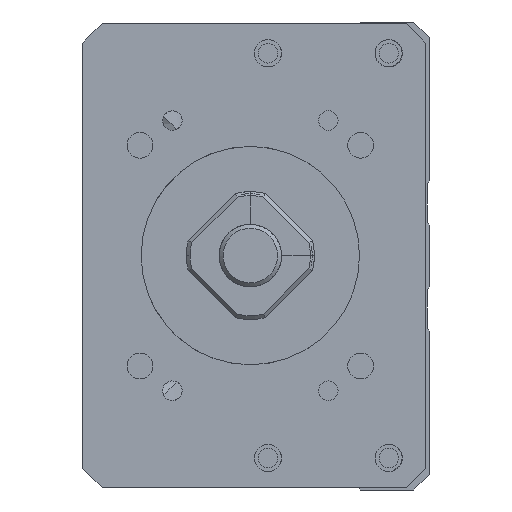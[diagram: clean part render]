
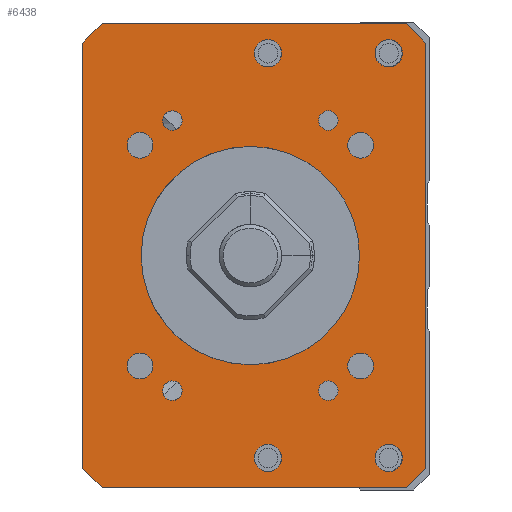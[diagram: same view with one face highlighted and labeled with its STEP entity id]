
A CAD part, left-side view. The second image highlights one B-rep face of the part: STEP entity #6438.
In plain terms, the highlighted planar face has unit normal (-1, 0, 0).
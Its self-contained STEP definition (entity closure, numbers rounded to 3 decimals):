
#4088=LINE('',#19227,#4921);
#4090=LINE('',#19251,#4923);
#4091=LINE('',#19253,#4924);
#4092=LINE('',#19255,#4925);
#4093=LINE('',#19257,#4926);
#4094=LINE('',#19259,#4927);
#4095=LINE('',#19261,#4928);
#4096=LINE('',#19263,#4929);
#4921=VECTOR('',#16147,1.);
#4923=VECTOR('',#16171,1.);
#4924=VECTOR('',#16172,1.);
#4925=VECTOR('',#16173,1.);
#4926=VECTOR('',#16174,1.);
#4927=VECTOR('',#16175,1.);
#4928=VECTOR('',#16176,1.);
#4929=VECTOR('',#16177,1.);
#5932=FACE_BOUND('',#7981,.T.);
#5933=FACE_BOUND('',#7982,.T.);
#5934=FACE_BOUND('',#7983,.T.);
#5935=FACE_BOUND('',#7984,.T.);
#5936=FACE_BOUND('',#7985,.T.);
#5937=FACE_BOUND('',#7986,.T.);
#5938=FACE_BOUND('',#7987,.T.);
#5939=FACE_BOUND('',#7988,.T.);
#5940=FACE_BOUND('',#7989,.T.);
#5941=FACE_BOUND('',#7990,.T.);
#5942=FACE_BOUND('',#7991,.T.);
#5943=FACE_BOUND('',#7992,.T.);
#5944=FACE_BOUND('',#7993,.T.);
#5945=FACE_BOUND('',#7994,.T.);
#6438=ADVANCED_FACE('',(#5932,#5933,#5934,#5935,#5936,#5937,#5938,#5939,
#5940,#5941,#5942,#5943,#5944,#5945),#7031,.F.);
#7031=PLANE('',#14710);
#7981=EDGE_LOOP('',(#9288));
#7982=EDGE_LOOP('',(#9289));
#7983=EDGE_LOOP('',(#9290));
#7984=EDGE_LOOP('',(#9291));
#7985=EDGE_LOOP('',(#9292));
#7986=EDGE_LOOP('',(#9293));
#7987=EDGE_LOOP('',(#9294));
#7988=EDGE_LOOP('',(#9295));
#7989=EDGE_LOOP('',(#9296));
#7990=EDGE_LOOP('',(#9297,#9298,#9299,#9300,#9301,#9302,#9303,#9304));
#7991=EDGE_LOOP('',(#9305));
#7992=EDGE_LOOP('',(#9306));
#7993=EDGE_LOOP('',(#9307));
#7994=EDGE_LOOP('',(#9308));
#9288=ORIENTED_EDGE('',*,*,#12916,.F.);
#9289=ORIENTED_EDGE('',*,*,#12917,.F.);
#9290=ORIENTED_EDGE('',*,*,#12918,.F.);
#9291=ORIENTED_EDGE('',*,*,#12919,.F.);
#9292=ORIENTED_EDGE('',*,*,#12920,.F.);
#9293=ORIENTED_EDGE('',*,*,#12921,.T.);
#9294=ORIENTED_EDGE('',*,*,#12922,.F.);
#9295=ORIENTED_EDGE('',*,*,#12923,.F.);
#9296=ORIENTED_EDGE('',*,*,#12924,.F.);
#9297=ORIENTED_EDGE('',*,*,#12913,.T.);
#9298=ORIENTED_EDGE('',*,*,#12925,.T.);
#9299=ORIENTED_EDGE('',*,*,#12926,.F.);
#9300=ORIENTED_EDGE('',*,*,#12927,.T.);
#9301=ORIENTED_EDGE('',*,*,#12928,.F.);
#9302=ORIENTED_EDGE('',*,*,#12929,.T.);
#9303=ORIENTED_EDGE('',*,*,#12930,.T.);
#9304=ORIENTED_EDGE('',*,*,#12931,.T.);
#9305=ORIENTED_EDGE('',*,*,#12932,.F.);
#9306=ORIENTED_EDGE('',*,*,#12933,.F.);
#9307=ORIENTED_EDGE('',*,*,#12934,.F.);
#9308=ORIENTED_EDGE('',*,*,#12893,.F.);
#11798=VERTEX_POINT('',#19150);
#11818=VERTEX_POINT('',#19226);
#11819=VERTEX_POINT('',#19228);
#11821=VERTEX_POINT('',#19234);
#11822=VERTEX_POINT('',#19236);
#11823=VERTEX_POINT('',#19238);
#11824=VERTEX_POINT('',#19240);
#11825=VERTEX_POINT('',#19242);
#11826=VERTEX_POINT('',#19244);
#11827=VERTEX_POINT('',#19246);
#11828=VERTEX_POINT('',#19248);
#11829=VERTEX_POINT('',#19250);
#11830=VERTEX_POINT('',#19252);
#11831=VERTEX_POINT('',#19254);
#11832=VERTEX_POINT('',#19256);
#11833=VERTEX_POINT('',#19258);
#11834=VERTEX_POINT('',#19260);
#11835=VERTEX_POINT('',#19262);
#11836=VERTEX_POINT('',#19265);
#11837=VERTEX_POINT('',#19267);
#11838=VERTEX_POINT('',#19269);
#12893=EDGE_CURVE('',#11798,#11798,#14160,.T.);
#12913=EDGE_CURVE('',#11819,#11818,#4088,.T.);
#12916=EDGE_CURVE('',#11821,#11821,#14169,.T.);
#12917=EDGE_CURVE('',#11822,#11822,#14170,.T.);
#12918=EDGE_CURVE('',#11823,#11823,#14171,.T.);
#12919=EDGE_CURVE('',#11824,#11824,#14172,.T.);
#12920=EDGE_CURVE('',#11825,#11825,#14173,.T.);
#12921=EDGE_CURVE('',#11826,#11826,#14174,.T.);
#12922=EDGE_CURVE('',#11827,#11827,#14175,.T.);
#12923=EDGE_CURVE('',#11828,#11828,#14176,.T.);
#12924=EDGE_CURVE('',#11829,#11829,#14177,.T.);
#12925=EDGE_CURVE('',#11818,#11830,#4090,.T.);
#12926=EDGE_CURVE('',#11831,#11830,#4091,.T.);
#12927=EDGE_CURVE('',#11831,#11832,#4092,.T.);
#12928=EDGE_CURVE('',#11833,#11832,#4093,.T.);
#12929=EDGE_CURVE('',#11833,#11834,#4094,.T.);
#12930=EDGE_CURVE('',#11834,#11835,#4095,.T.);
#12931=EDGE_CURVE('',#11835,#11819,#4096,.T.);
#12932=EDGE_CURVE('',#11836,#11836,#14178,.T.);
#12933=EDGE_CURVE('',#11837,#11837,#14179,.T.);
#12934=EDGE_CURVE('',#11838,#11838,#14180,.T.);
#14160=CIRCLE('',#14687,14.);
#14169=CIRCLE('',#14698,1.65);
#14170=CIRCLE('',#14699,1.65);
#14171=CIRCLE('',#14700,1.65);
#14172=CIRCLE('',#14701,1.65);
#14173=CIRCLE('',#14702,1.25);
#14174=CIRCLE('',#14703,1.75);
#14175=CIRCLE('',#14704,1.25);
#14176=CIRCLE('',#14705,1.75);
#14177=CIRCLE('',#14706,1.25);
#14178=CIRCLE('',#14707,1.75);
#14179=CIRCLE('',#14708,1.75);
#14180=CIRCLE('',#14709,1.25);
#14687=AXIS2_PLACEMENT_3D('',#19149,#16121,#16122);
#14698=AXIS2_PLACEMENT_3D('',#19233,#16153,#16154);
#14699=AXIS2_PLACEMENT_3D('',#19235,#16155,#16156);
#14700=AXIS2_PLACEMENT_3D('',#19237,#16157,#16158);
#14701=AXIS2_PLACEMENT_3D('',#19239,#16159,#16160);
#14702=AXIS2_PLACEMENT_3D('',#19241,#16161,#16162);
#14703=AXIS2_PLACEMENT_3D('',#19243,#16163,#16164);
#14704=AXIS2_PLACEMENT_3D('',#19245,#16165,#16166);
#14705=AXIS2_PLACEMENT_3D('',#19247,#16167,#16168);
#14706=AXIS2_PLACEMENT_3D('',#19249,#16169,#16170);
#14707=AXIS2_PLACEMENT_3D('',#19264,#16178,#16179);
#14708=AXIS2_PLACEMENT_3D('',#19266,#16180,#16181);
#14709=AXIS2_PLACEMENT_3D('',#19268,#16182,#16183);
#14710=AXIS2_PLACEMENT_3D('',#19270,#16184,#16185);
#16121=DIRECTION('',(-1.,0.,0.));
#16122=DIRECTION('',(0.,1.,0.));
#16147=DIRECTION('',(0.,0.,-1.));
#16153=DIRECTION('',(-1.,0.,0.));
#16154=DIRECTION('',(0.,0.,1.));
#16155=DIRECTION('',(-1.,0.,0.));
#16156=DIRECTION('',(0.,0.,1.));
#16157=DIRECTION('',(-1.,0.,0.));
#16158=DIRECTION('',(0.,0.,1.));
#16159=DIRECTION('',(-1.,0.,0.));
#16160=DIRECTION('',(0.,0.,1.));
#16161=DIRECTION('',(-1.,0.,0.));
#16162=DIRECTION('',(0.,1.,0.));
#16163=DIRECTION('',(1.,0.,0.));
#16164=DIRECTION('',(0.,0.,1.));
#16165=DIRECTION('',(-1.,0.,0.));
#16166=DIRECTION('',(0.,1.,0.));
#16167=DIRECTION('',(-1.,0.,0.));
#16168=DIRECTION('',(0.,0.,1.));
#16169=DIRECTION('',(-1.,0.,0.));
#16170=DIRECTION('',(0.,1.,0.));
#16171=DIRECTION('',(0.,-0.707,-0.707));
#16172=DIRECTION('',(0.,1.,0.));
#16173=DIRECTION('',(0.,-0.707,0.707));
#16174=DIRECTION('',(0.,0.,-1.));
#16175=DIRECTION('',(0.,0.707,0.707));
#16176=DIRECTION('',(0.,1.,0.));
#16177=DIRECTION('',(0.,0.707,-0.707));
#16178=DIRECTION('',(-1.,0.,0.));
#16179=DIRECTION('',(0.,0.,1.));
#16180=DIRECTION('',(-1.,0.,0.));
#16181=DIRECTION('',(0.,0.,1.));
#16182=DIRECTION('',(-1.,0.,0.));
#16183=DIRECTION('',(0.,1.,0.));
#16184=DIRECTION('',(1.,0.,0.));
#16185=DIRECTION('',(0.,1.,0.));
#19149=CARTESIAN_POINT('',(-211.,0.,-200.));
#19150=CARTESIAN_POINT('',(-211.,14.,-200.));
#19226=CARTESIAN_POINT('',(-211.,21.499,-227.25));
#19227=CARTESIAN_POINT('',(-211.,21.499,-170.25));
#19228=CARTESIAN_POINT('',(-211.,21.499,-172.75));
#19233=CARTESIAN_POINT('',(-211.,14.142,-185.858));
#19234=CARTESIAN_POINT('',(-211.,14.142,-184.208));
#19235=CARTESIAN_POINT('',(-211.,-14.142,-185.858));
#19236=CARTESIAN_POINT('',(-211.,-14.142,-184.208));
#19237=CARTESIAN_POINT('',(-211.,14.142,-214.142));
#19238=CARTESIAN_POINT('',(-211.,14.142,-212.492));
#19239=CARTESIAN_POINT('',(-211.,-14.142,-214.142));
#19240=CARTESIAN_POINT('',(-211.,-14.142,-212.492));
#19241=CARTESIAN_POINT('',(-211.,-10.,-217.321));
#19242=CARTESIAN_POINT('',(-211.,-8.75,-217.321));
#19243=CARTESIAN_POINT('',(-211.,-2.25,-225.936));
#19244=CARTESIAN_POINT('',(-211.,-2.25,-224.186));
#19245=CARTESIAN_POINT('',(-211.,10.,-182.679));
#19246=CARTESIAN_POINT('',(-211.,11.25,-182.679));
#19247=CARTESIAN_POINT('',(-211.,-2.25,-174.064));
#19248=CARTESIAN_POINT('',(-211.,-2.25,-172.314));
#19249=CARTESIAN_POINT('',(-211.,10.,-217.321));
#19250=CARTESIAN_POINT('',(-211.,11.25,-217.321));
#19251=CARTESIAN_POINT('',(-211.,18.999,-229.75));
#19252=CARTESIAN_POINT('',(-211.,18.999,-229.75));
#19253=CARTESIAN_POINT('',(-211.,-22.501,-229.75));
#19254=CARTESIAN_POINT('',(-211.,-20.001,-229.75));
#19255=CARTESIAN_POINT('',(-211.,-22.501,-227.25));
#19256=CARTESIAN_POINT('',(-211.,-22.501,-227.25));
#19257=CARTESIAN_POINT('',(-211.,-22.501,-170.25));
#19258=CARTESIAN_POINT('',(-211.,-22.501,-172.75));
#19259=CARTESIAN_POINT('',(-211.,-22.501,-172.75));
#19260=CARTESIAN_POINT('',(-211.,-20.001,-170.25));
#19261=CARTESIAN_POINT('',(-211.,-22.501,-170.25));
#19262=CARTESIAN_POINT('',(-211.,18.999,-170.25));
#19263=CARTESIAN_POINT('',(-211.,18.999,-170.25));
#19264=CARTESIAN_POINT('',(-211.,-17.75,-174.064));
#19265=CARTESIAN_POINT('',(-211.,-17.75,-172.314));
#19266=CARTESIAN_POINT('',(-211.,-17.75,-225.936));
#19267=CARTESIAN_POINT('',(-211.,-17.75,-224.186));
#19268=CARTESIAN_POINT('',(-211.,-10.,-182.679));
#19269=CARTESIAN_POINT('',(-211.,-8.75,-182.679));
#19270=CARTESIAN_POINT('',(-211.,-22.501,-170.25));
